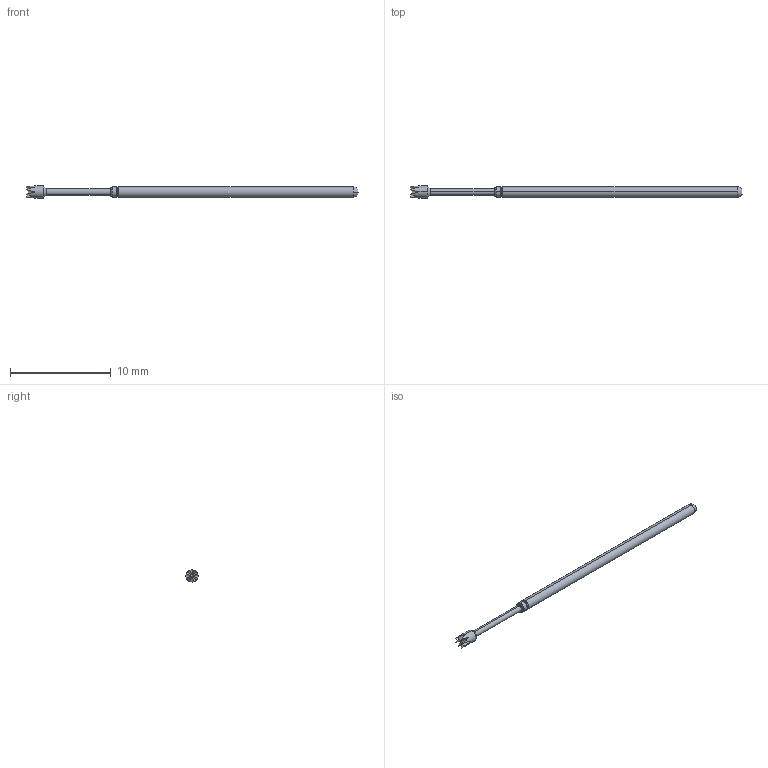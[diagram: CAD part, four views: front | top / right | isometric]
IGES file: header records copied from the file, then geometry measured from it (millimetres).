
Start section: SolidWorks IGES file using analytic representation for surfaces
Global section: file name: Z:\probe solid model mockups\Solidworks models\Parts\LFRE-1Z.IGS; native system: SolidWorks 2016; preprocessor: SolidWorks 2016; author: mlee; date: 180927.164223; units: inch
Bounding box: 33.02 x 1.19 x 1.19 mm (x, y, z)
Surface area: 101.8 mm2 (no closed solid volume)
Topology: 0 solids, 0 shells, 38 faces, 210 edges, 210 vertices
Faces by surface type: bspline 22, revolution 16
